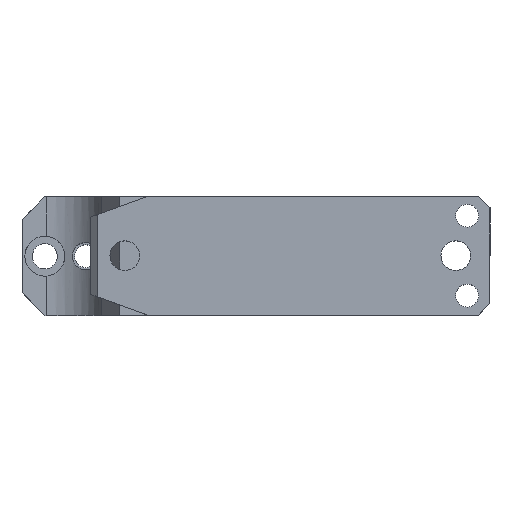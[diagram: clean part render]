
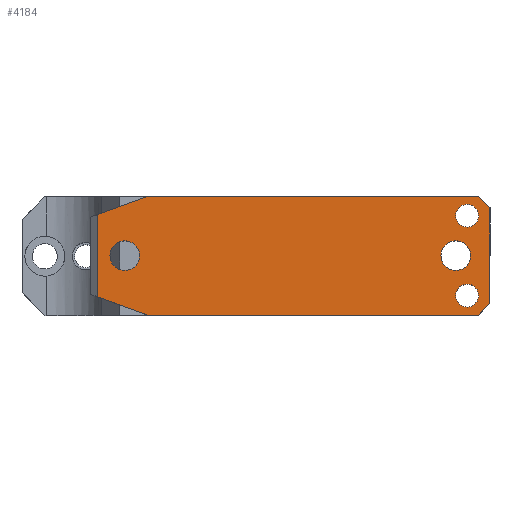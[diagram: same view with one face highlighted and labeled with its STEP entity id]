
A CAD part, top view. The second image highlights one B-rep face of the part: STEP entity #4184.
In plain terms, the highlighted planar face has unit normal (0, 0, 1).
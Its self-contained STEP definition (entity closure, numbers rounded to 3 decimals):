
#69 = CIRCLE ( 'NONE', #1607, 5. ) ;
#203 = ORIENTED_EDGE ( 'NONE', *, *, #2604, .F. ) ;
#343 = CIRCLE ( 'NONE', #4917, 6.5 ) ;
#427 = CARTESIAN_POINT ( 'NONE',  ( 30.5, 0., 125. ) ) ;
#636 = FACE_BOUND ( 'NONE', #6302, .T. ) ;
#970 = CARTESIAN_POINT ( 'NONE',  ( 169., 0., 125. ) ) ;
#998 = FACE_BOUND ( 'NONE', #7547, .T. ) ;
#1017 = ORIENTED_EDGE ( 'NONE', *, *, #5196, .F. ) ;
#1060 = CARTESIAN_POINT ( 'NONE',  ( 17.5, 0., 125. ) ) ;
#1136 = CARTESIAN_POINT ( 'NONE',  ( 174., -17.5, 125. ) ) ;
#1217 = CARTESIAN_POINT ( 'NONE',  ( 162.5, 0., 125. ) ) ;
#1338 = DIRECTION ( 'NONE',  ( 1., 0., 0. ) ) ;
#1510 = CIRCLE ( 'NONE', #10112, 6.5 ) ;
#1546 = LINE ( 'NONE', #9083, #10431 ) ;
#1607 = AXIS2_PLACEMENT_3D ( 'NONE', #2061, #9850, #3171 ) ;
#1636 = DIRECTION ( 'NONE',  ( 0.94, 0.342, 0. ) ) ;
#1640 = VERTEX_POINT ( 'NONE', #10639 ) ;
#1744 = VECTOR ( 'NONE', #2164, 1000. ) ;
#1779 = CARTESIAN_POINT ( 'NONE',  ( 179., -17.5, 125. ) ) ;
#2061 = CARTESIAN_POINT ( 'NONE',  ( 174., 17.5, 125. ) ) ;
#2106 = DIRECTION ( 'NONE',  ( -1., 0., 0. ) ) ;
#2164 = DIRECTION ( 'NONE',  ( -0.707, -0.707, 0. ) ) ;
#2270 = DIRECTION ( 'NONE',  ( -1., 0., 0. ) ) ;
#2275 = CARTESIAN_POINT ( 'NONE',  ( 24., 0., 125. ) ) ;
#2376 = DIRECTION ( 'NONE',  ( -0.94, 0.342, 0. ) ) ;
#2379 = CARTESIAN_POINT ( 'NONE',  ( 174., 17.5, 125. ) ) ;
#2409 = ORIENTED_EDGE ( 'NONE', *, *, #10957, .T. ) ;
#2423 = ORIENTED_EDGE ( 'NONE', *, *, #10857, .F. ) ;
#2428 = DIRECTION ( 'NONE',  ( 0., -1., 0. ) ) ;
#2443 = CIRCLE ( 'NONE', #5590, 5. ) ;
#2604 = EDGE_CURVE ( 'NONE', #11486, #7765, #12752, .T. ) ;
#2748 = LINE ( 'NONE', #8344, #7651 ) ;
#2880 = VERTEX_POINT ( 'NONE', #3105 ) ;
#2976 = CARTESIAN_POINT ( 'NONE',  ( 179., 17.5, 125. ) ) ;
#3072 = CIRCLE ( 'NONE', #3102, 6.5 ) ;
#3102 = AXIS2_PLACEMENT_3D ( 'NONE', #970, #8796, #2106 ) ;
#3105 = CARTESIAN_POINT ( 'NONE',  ( 169., 17.5, 125. ) ) ;
#3171 = DIRECTION ( 'NONE',  ( -1., 0., 0. ) ) ;
#3292 = CARTESIAN_POINT ( 'NONE',  ( 12., 17.993, 125. ) ) ;
#3336 = CARTESIAN_POINT ( 'NONE',  ( 9., 26., 125. ) ) ;
#3381 = DIRECTION ( 'NONE',  ( -1., 0., 0. ) ) ;
#3457 = VERTEX_POINT ( 'NONE', #4322 ) ;
#3497 = VERTEX_POINT ( 'NONE', #14385 ) ;
#3502 = DIRECTION ( 'NONE',  ( -1., 0., 0. ) ) ;
#3528 = CARTESIAN_POINT ( 'NONE',  ( 9., 26., 125. ) ) ;
#3571 = DIRECTION ( 'NONE',  ( -1., 0., 0. ) ) ;
#3600 = CARTESIAN_POINT ( 'NONE',  ( 179., 26., 125. ) ) ;
#3612 = FACE_BOUND ( 'NONE', #13781, .T. ) ;
#3617 = EDGE_CURVE ( 'NONE', #10154, #2880, #11676, .T. ) ;
#3704 = ORIENTED_EDGE ( 'NONE', *, *, #11856, .T. ) ;
#4021 = LINE ( 'NONE', #3336, #11893 ) ;
#4078 = EDGE_CURVE ( 'NONE', #8097, #3457, #5001, .T. ) ;
#4124 = ORIENTED_EDGE ( 'NONE', *, *, #13980, .T. ) ;
#4171 = VECTOR ( 'NONE', #2428, 1000. ) ;
#4184 = ADVANCED_FACE ( 'NONE', ( #3612, #12189, #998, #636, #9228 ), #8051, .F. ) ;
#4322 = CARTESIAN_POINT ( 'NONE',  ( 169., -17.5, 125. ) ) ;
#4408 = CARTESIAN_POINT ( 'NONE',  ( 12., -17.993, 125. ) ) ;
#4449 = VERTEX_POINT ( 'NONE', #3292 ) ;
#4586 = DIRECTION ( 'NONE',  ( -1., 0., 0. ) ) ;
#4750 = CARTESIAN_POINT ( 'NONE',  ( 12., 26., 125. ) ) ;
#4903 = ORIENTED_EDGE ( 'NONE', *, *, #9704, .F. ) ;
#4917 = AXIS2_PLACEMENT_3D ( 'NONE', #2275, #10074, #3381 ) ;
#5001 = CIRCLE ( 'NONE', #11923, 5. ) ;
#5106 = VERTEX_POINT ( 'NONE', #1217 ) ;
#5120 = ORIENTED_EDGE ( 'NONE', *, *, #8891, .T. ) ;
#5196 = EDGE_CURVE ( 'NONE', #12648, #11486, #5851, .T. ) ;
#5211 = DIRECTION ( 'NONE',  ( 0., 0., -1. ) ) ;
#5231 = VERTEX_POINT ( 'NONE', #11469 ) ;
#5301 = ORIENTED_EDGE ( 'NONE', *, *, #11759, .T. ) ;
#5324 = CARTESIAN_POINT ( 'NONE',  ( 179., 26., 125. ) ) ;
#5422 = CARTESIAN_POINT ( 'NONE',  ( 174., -17.5, 125. ) ) ;
#5590 = AXIS2_PLACEMENT_3D ( 'NONE', #5422, #13243, #6560 ) ;
#5738 = CARTESIAN_POINT ( 'NONE',  ( 184., -21., 125. ) ) ;
#5851 = LINE ( 'NONE', #3600, #14421 ) ;
#6058 = EDGE_LOOP ( 'NONE', ( #3704, #10064 ) ) ;
#6068 = LINE ( 'NONE', #4750, #11656 ) ;
#6169 = EDGE_CURVE ( 'NONE', #11637, #1640, #11974, .T. ) ;
#6302 = EDGE_LOOP ( 'NONE', ( #11442, #4124 ) ) ;
#6418 = AXIS2_PLACEMENT_3D ( 'NONE', #3528, #10274, #3571 ) ;
#6560 = DIRECTION ( 'NONE',  ( -1., 0., 0. ) ) ;
#6724 = DIRECTION ( 'NONE',  ( 0., 0., -1. ) ) ;
#6907 = CARTESIAN_POINT ( 'NONE',  ( 9., -26., 125. ) ) ;
#7237 = ORIENTED_EDGE ( 'NONE', *, *, #9687, .T. ) ;
#7547 = EDGE_LOOP ( 'NONE', ( #5301, #5120 ) ) ;
#7651 = VECTOR ( 'NONE', #1636, 1000. ) ;
#7765 = VERTEX_POINT ( 'NONE', #5738 ) ;
#7932 = CIRCLE ( 'NONE', #9191, 6.5 ) ;
#8051 = PLANE ( 'NONE',  #6418 ) ;
#8074 = DIRECTION ( 'NONE',  ( 0.707, -0.707, 0. ) ) ;
#8097 = VERTEX_POINT ( 'NONE', #1779 ) ;
#8270 = CARTESIAN_POINT ( 'NONE',  ( 34., -26., 125. ) ) ;
#8272 = ORIENTED_EDGE ( 'NONE', *, *, #8882, .F. ) ;
#8344 = CARTESIAN_POINT ( 'NONE',  ( 9., 16.901, 125. ) ) ;
#8796 = DIRECTION ( 'NONE',  ( 0., 0., -1. ) ) ;
#8862 = CARTESIAN_POINT ( 'NONE',  ( 179., -26., 125. ) ) ;
#8882 = EDGE_CURVE ( 'NONE', #5231, #12648, #4021, .T. ) ;
#8891 = EDGE_CURVE ( 'NONE', #11635, #13307, #343, .T. ) ;
#8957 = DIRECTION ( 'NONE',  ( 0., 0., -1. ) ) ;
#9083 = CARTESIAN_POINT ( 'NONE',  ( 9., -16.901, 125. ) ) ;
#9191 = AXIS2_PLACEMENT_3D ( 'NONE', #13400, #6724, #4586 ) ;
#9228 = FACE_OUTER_BOUND ( 'NONE', #11049, .T. ) ;
#9687 = EDGE_CURVE ( 'NONE', #3457, #8097, #2443, .T. ) ;
#9704 = EDGE_CURVE ( 'NONE', #7765, #1640, #12915, .T. ) ;
#9850 = DIRECTION ( 'NONE',  ( 0., 0., -1. ) ) ;
#9879 = ORIENTED_EDGE ( 'NONE', *, *, #6169, .T. ) ;
#9900 = ORIENTED_EDGE ( 'NONE', *, *, #11034, .F. ) ;
#10064 = ORIENTED_EDGE ( 'NONE', *, *, #3617, .T. ) ;
#10074 = DIRECTION ( 'NONE',  ( 0., 0., -1. ) ) ;
#10112 = AXIS2_PLACEMENT_3D ( 'NONE', #11907, #5211, #13035 ) ;
#10154 = VERTEX_POINT ( 'NONE', #2976 ) ;
#10183 = DIRECTION ( 'NONE',  ( 0., 0., -1. ) ) ;
#10212 = CARTESIAN_POINT ( 'NONE',  ( 184., 21., 125. ) ) ;
#10227 = CARTESIAN_POINT ( 'NONE',  ( 184., 26., 125. ) ) ;
#10274 = DIRECTION ( 'NONE',  ( 0., 0., -1. ) ) ;
#10431 = VECTOR ( 'NONE', #2376, 1000. ) ;
#10616 = ORIENTED_EDGE ( 'NONE', *, *, #4078, .T. ) ;
#10639 = CARTESIAN_POINT ( 'NONE',  ( 179., -26., 125. ) ) ;
#10786 = VERTEX_POINT ( 'NONE', #4408 ) ;
#10857 = EDGE_CURVE ( 'NONE', #11637, #10786, #1546, .T. ) ;
#10957 = EDGE_CURVE ( 'NONE', #4449, #10786, #6068, .T. ) ;
#10983 = AXIS2_PLACEMENT_3D ( 'NONE', #2379, #10183, #3502 ) ;
#11034 = EDGE_CURVE ( 'NONE', #4449, #5231, #2748, .T. ) ;
#11049 = EDGE_LOOP ( 'NONE', ( #9900, #2409, #2423, #9879, #4903, #203, #1017, #8272 ) ) ;
#11153 = DIRECTION ( 'NONE',  ( 1., 0., 0. ) ) ;
#11442 = ORIENTED_EDGE ( 'NONE', *, *, #11881, .T. ) ;
#11453 = DIRECTION ( 'NONE',  ( 0., -1., 0. ) ) ;
#11469 = CARTESIAN_POINT ( 'NONE',  ( 34., 26., 125. ) ) ;
#11486 = VERTEX_POINT ( 'NONE', #10212 ) ;
#11617 = VECTOR ( 'NONE', #1338, 1000. ) ;
#11635 = VERTEX_POINT ( 'NONE', #427 ) ;
#11637 = VERTEX_POINT ( 'NONE', #8270 ) ;
#11656 = VECTOR ( 'NONE', #11453, 1000. ) ;
#11676 = CIRCLE ( 'NONE', #10983, 5. ) ;
#11759 = EDGE_CURVE ( 'NONE', #13307, #11635, #1510, .T. ) ;
#11856 = EDGE_CURVE ( 'NONE', #2880, #10154, #69, .T. ) ;
#11881 = EDGE_CURVE ( 'NONE', #5106, #3497, #3072, .T. ) ;
#11893 = VECTOR ( 'NONE', #11153, 1000. ) ;
#11907 = CARTESIAN_POINT ( 'NONE',  ( 24., 0., 125. ) ) ;
#11923 = AXIS2_PLACEMENT_3D ( 'NONE', #1136, #8957, #2270 ) ;
#11974 = LINE ( 'NONE', #6907, #11617 ) ;
#12189 = FACE_BOUND ( 'NONE', #6058, .T. ) ;
#12648 = VERTEX_POINT ( 'NONE', #5324 ) ;
#12752 = LINE ( 'NONE', #10227, #4171 ) ;
#12915 = LINE ( 'NONE', #8862, #1744 ) ;
#13035 = DIRECTION ( 'NONE',  ( -1., 0., 0. ) ) ;
#13243 = DIRECTION ( 'NONE',  ( 0., 0., -1. ) ) ;
#13307 = VERTEX_POINT ( 'NONE', #1060 ) ;
#13400 = CARTESIAN_POINT ( 'NONE',  ( 169., 0., 125. ) ) ;
#13781 = EDGE_LOOP ( 'NONE', ( #7237, #10616 ) ) ;
#13980 = EDGE_CURVE ( 'NONE', #3497, #5106, #7932, .T. ) ;
#14385 = CARTESIAN_POINT ( 'NONE',  ( 175.5, 0., 125. ) ) ;
#14421 = VECTOR ( 'NONE', #8074, 1000. ) ;
